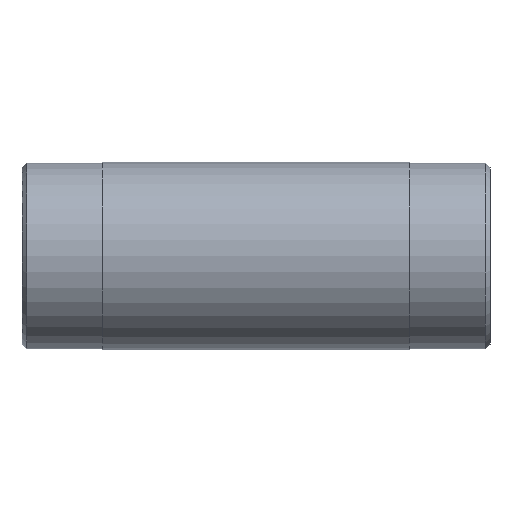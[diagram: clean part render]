
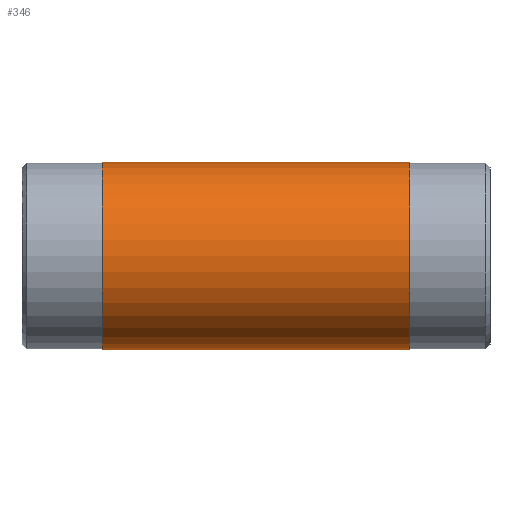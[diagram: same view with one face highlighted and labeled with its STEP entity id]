
A CAD part, top view. The second image highlights one B-rep face of the part: STEP entity #346.
In plain terms, the highlighted cylindrical face has radius 30 mm (diameter 60 mm), a partial arc.
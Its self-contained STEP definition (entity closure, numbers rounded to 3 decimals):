
#82=CARTESIAN_POINT('',(25.7,-27.5,0.));
#83=DIRECTION('',(1.,0.,0.));
#84=DIRECTION('',(0.,1.,0.));
#85=AXIS2_PLACEMENT_3D('',#82,#83,#84);
#92=DIRECTION('',(-1.,0.,0.));
#93=VECTOR('',#92,98.6);
#94=CARTESIAN_POINT('',(124.3,2.5,0.));
#95=LINE('',#94,#93);
#96=CARTESIAN_POINT('',(124.3,-27.5,0.));
#97=DIRECTION('',(1.,0.,0.));
#98=DIRECTION('',(0.,1.,0.));
#99=AXIS2_PLACEMENT_3D('',#96,#97,#98);
#101=DIRECTION('',(-1.,0.,0.));
#102=VECTOR('',#101,98.6);
#103=CARTESIAN_POINT('',(124.3,-57.5,0.));
#104=LINE('',#103,#102);
#171=CARTESIAN_POINT('',(124.3,2.5,0.));
#172=CARTESIAN_POINT('',(25.7,2.5,0.));
#173=VERTEX_POINT('',#171);
#174=VERTEX_POINT('',#172);
#191=CARTESIAN_POINT('',(124.3,-57.5,0.));
#192=CARTESIAN_POINT('',(25.7,-57.5,0.));
#193=VERTEX_POINT('',#191);
#194=VERTEX_POINT('',#192);
#334=CARTESIAN_POINT('',(157.5,-27.5,0.));
#335=DIRECTION('',(-1.,0.,0.));
#336=DIRECTION('',(0.,1.,0.));
#337=AXIS2_PLACEMENT_3D('',#334,#335,#336);
#338=CYLINDRICAL_SURFACE('',#337,30.);
#339=ORIENTED_EDGE('',*,*,#324,.F.);
#341=ORIENTED_EDGE('',*,*,#340,.T.);
#342=ORIENTED_EDGE('',*,*,#327,.T.);
#343=ORIENTED_EDGE('',*,*,#310,.F.);
#344=EDGE_LOOP('',(#339,#341,#342,#343));
#345=FACE_OUTER_BOUND('',#344,.F.);
#346=ADVANCED_FACE('',(#345),#338,.T.);
#86=CIRCLE('',#85,30.);
#100=CIRCLE('',#99,30.);
#310=EDGE_CURVE('',#174,#194,#86,.T.);
#324=EDGE_CURVE('',#173,#174,#95,.T.);
#327=EDGE_CURVE('',#193,#194,#104,.T.);
#340=EDGE_CURVE('',#173,#193,#100,.T.);
